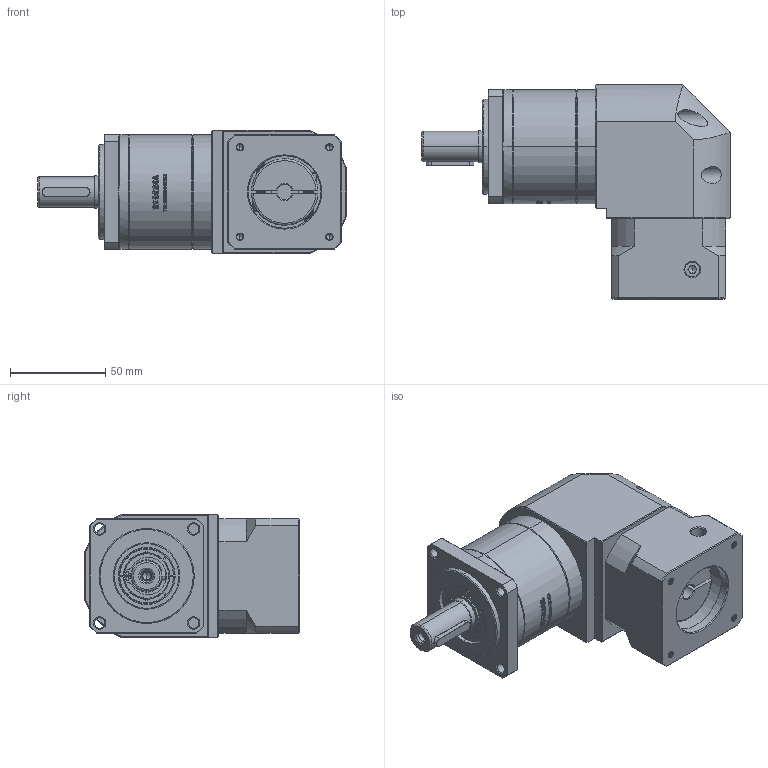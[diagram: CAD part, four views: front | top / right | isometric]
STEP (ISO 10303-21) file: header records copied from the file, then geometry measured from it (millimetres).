
FILE_DESCRIPTION (( 'STEP AP214' ), '1' );
FILE_NAME ('ZFR60-D16-L1-8-38.1-47.14x47.14-M4.STEP', '2022-04-20T08:21:57', ( '' ), ( 'Microsoft' ), 'SwSTEP 2.0', 'SolidWorks 2016', '' );
FILE_SCHEMA (( 'AUTOMOTIVE_DESIGN' ));
Length unit declared in the file: millimetre
Products named in the file (1): ZFR60-D16-L1-8-38.1-47.14x47.14-M4
Bounding box: 162.5 x 112.7 x 65 mm (x, y, z)
Volume: 543374.8 mm3; surface area: 80200.4 mm2
Topology: 5 solids, 6 shells, 2687 faces, 7327 edges, 4778 vertices
Faces by surface type: plane 1398, bspline 579, cylinder 396, cone 290, torus 24
Entity records: 146877 total; most frequent: CARTESIAN_POINT 54912, ORIENTED_EDGE 14610, DIRECTION 10528, EDGE_CURVE 7305, VERTEX_POINT 4778, LINE 4384, VECTOR 4384, AXIS2_PLACEMENT_3D 3072
